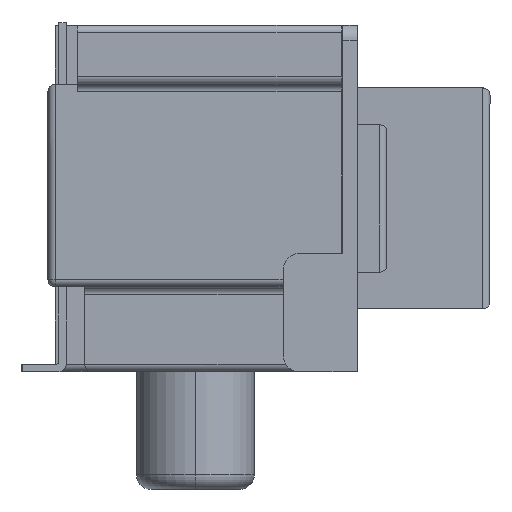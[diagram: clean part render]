
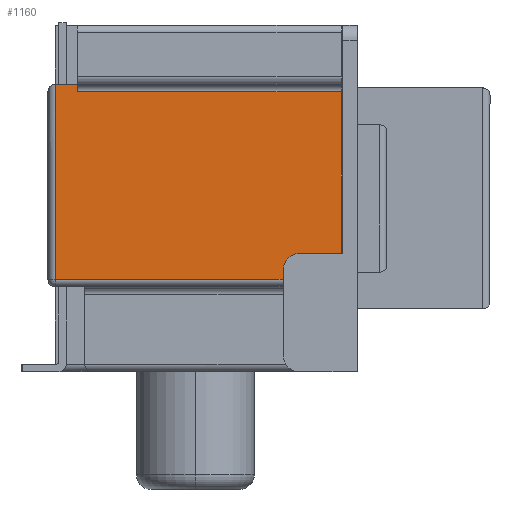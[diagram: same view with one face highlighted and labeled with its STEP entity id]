
A CAD part, left-side view. The second image highlights one B-rep face of the part: STEP entity #1160.
In plain terms, the highlighted planar face has unit normal (-1, 0, 0).
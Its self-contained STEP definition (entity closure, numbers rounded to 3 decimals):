
#626 = DIRECTION ( 'NONE',  ( 0., 0., 1. ) ) ;
#835 = LINE ( 'NONE', #2510, #18659 ) ;
#887 = LINE ( 'NONE', #12390, #10558 ) ;
#1129 = CARTESIAN_POINT ( 'NONE',  ( -3.05, 0.775, -0.95 ) ) ;
#1160 = ADVANCED_FACE ( 'NONE', ( #6914 ), #8209, .F. ) ;
#1218 = VERTEX_POINT ( 'NONE', #13933 ) ;
#1259 = VERTEX_POINT ( 'NONE', #1129 ) ;
#1518 = ORIENTED_EDGE ( 'NONE', *, *, #17363, .T. ) ;
#1520 = DIRECTION ( 'NONE',  ( 0., 1., 0. ) ) ;
#2161 = CARTESIAN_POINT ( 'NONE',  ( -3.05, 0.775, -0.8 ) ) ;
#2510 = CARTESIAN_POINT ( 'NONE',  ( -3.05, -0.55, -1. ) ) ;
#2630 = VERTEX_POINT ( 'NONE', #13610 ) ;
#2730 = VERTEX_POINT ( 'NONE', #20625 ) ;
#2943 = CARTESIAN_POINT ( 'NONE',  ( -3.05, 0., -0.8 ) ) ;
#2997 = EDGE_CURVE ( 'NONE', #2630, #10620, #20599, .T. ) ;
#3418 = DIRECTION ( 'NONE',  ( 0., -1., 0. ) ) ;
#3540 = EDGE_LOOP ( 'NONE', ( #1518, #16234, #14519, #18076, #3735, #15703 ) ) ;
#3735 = ORIENTED_EDGE ( 'NONE', *, *, #18656, .F. ) ;
#3799 = CARTESIAN_POINT ( 'NONE',  ( -3.05, 0.775, -1. ) ) ;
#5283 = DIRECTION ( 'NONE',  ( 0., 0., 1. ) ) ;
#5454 = VECTOR ( 'NONE', #5283, 1000. ) ;
#6914 = FACE_OUTER_BOUND ( 'NONE', #3540, .T. ) ;
#8209 = PLANE ( 'NONE',  #16793 ) ;
#8435 = DIRECTION ( 'NONE',  ( 0., 0., -1. ) ) ;
#10428 = VERTEX_POINT ( 'NONE', #2161 ) ;
#10558 = VECTOR ( 'NONE', #20478, 1000. ) ;
#10582 = VECTOR ( 'NONE', #1520, 1000. ) ;
#10620 = VERTEX_POINT ( 'NONE', #18319 ) ;
#11037 = EDGE_CURVE ( 'NONE', #1259, #1218, #17973, .T. ) ;
#12390 = CARTESIAN_POINT ( 'NONE',  ( -3.05, 0.725, -0.8 ) ) ;
#12401 = VECTOR ( 'NONE', #3418, 1000. ) ;
#13323 = EDGE_CURVE ( 'NONE', #2730, #10428, #17468, .T. ) ;
#13610 = CARTESIAN_POINT ( 'NONE',  ( -3.05, -0.55, 0.99 ) ) ;
#13933 = CARTESIAN_POINT ( 'NONE',  ( -3.05, -0.55, -0.95 ) ) ;
#14519 = ORIENTED_EDGE ( 'NONE', *, *, #17998, .T. ) ;
#15703 = ORIENTED_EDGE ( 'NONE', *, *, #11037, .T. ) ;
#16234 = ORIENTED_EDGE ( 'NONE', *, *, #2997, .T. ) ;
#16793 = AXIS2_PLACEMENT_3D ( 'NONE', #17980, #19868, #8435 ) ;
#17363 = EDGE_CURVE ( 'NONE', #1218, #2630, #835, .T. ) ;
#17468 = LINE ( 'NONE', #2943, #20169 ) ;
#17973 = LINE ( 'NONE', #18065, #12401 ) ;
#17980 = CARTESIAN_POINT ( 'NONE',  ( -3.05, -0.6, -1. ) ) ;
#17998 = EDGE_CURVE ( 'NONE', #10620, #2730, #887, .T. ) ;
#18065 = CARTESIAN_POINT ( 'NONE',  ( -3.05, -0.6, -0.95 ) ) ;
#18076 = ORIENTED_EDGE ( 'NONE', *, *, #13323, .T. ) ;
#18319 = CARTESIAN_POINT ( 'NONE',  ( -3.05, 0.725, 0.99 ) ) ;
#18348 = LINE ( 'NONE', #3799, #5454 ) ;
#18656 = EDGE_CURVE ( 'NONE', #1259, #10428, #18348, .T. ) ;
#18659 = VECTOR ( 'NONE', #626, 1000. ) ;
#19868 = DIRECTION ( 'NONE',  ( 1., 0., 0. ) ) ;
#20169 = VECTOR ( 'NONE', #20452, 1000. ) ;
#20452 = DIRECTION ( 'NONE',  ( 0., 1., 0. ) ) ;
#20478 = DIRECTION ( 'NONE',  ( 0., 0., -1. ) ) ;
#20599 = LINE ( 'NONE', #20697, #10582 ) ;
#20625 = CARTESIAN_POINT ( 'NONE',  ( -3.05, 0.725, -0.8 ) ) ;
#20697 = CARTESIAN_POINT ( 'NONE',  ( -3.05, 0.725, 0.99 ) ) ;
